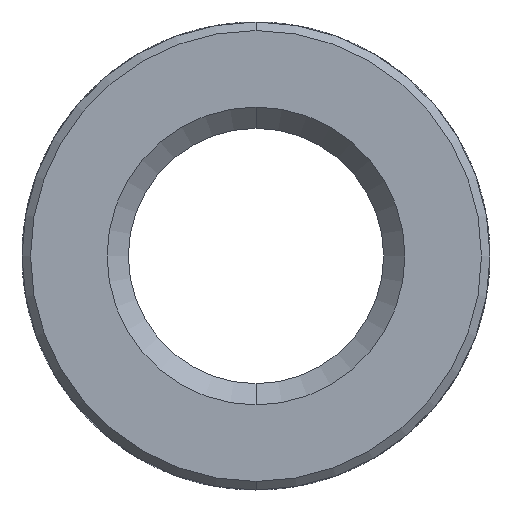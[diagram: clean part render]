
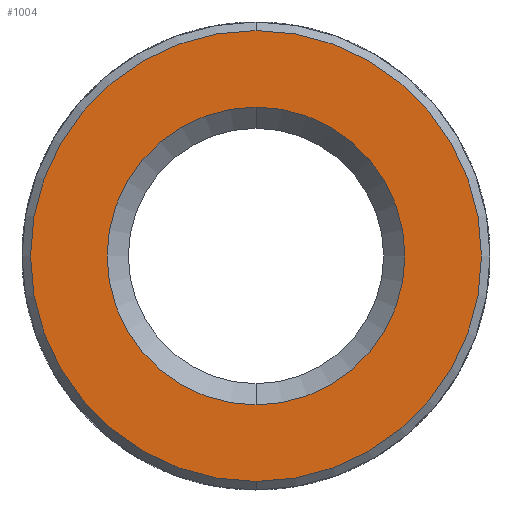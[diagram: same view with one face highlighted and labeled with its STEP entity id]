
A CAD part, front view. The second image highlights one B-rep face of the part: STEP entity #1004.
In plain terms, the highlighted planar face has unit normal (0, -1, 0).
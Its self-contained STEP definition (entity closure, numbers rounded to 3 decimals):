
#79 = EDGE_CURVE ( 'NONE', #3825, #1721, #1003, .T. ) ;
#145 = EDGE_CURVE ( 'NONE', #3930, #2980, #2887, .T. ) ;
#176 = CARTESIAN_POINT ( 'NONE',  ( 0., -4.1, 0. ) ) ;
#277 = CARTESIAN_POINT ( 'NONE',  ( 0., -4.1, -2.65 ) ) ;
#352 = DIRECTION ( 'NONE',  ( 0., 0., -1. ) ) ;
#355 = EDGE_CURVE ( 'NONE', #1721, #3825, #951, .T. ) ;
#408 = EDGE_LOOP ( 'NONE', ( #2009, #2574 ) ) ;
#410 = AXIS2_PLACEMENT_3D ( 'NONE', #706, #657, #352 ) ;
#657 = DIRECTION ( 'NONE',  ( 0., 1., 0. ) ) ;
#706 = CARTESIAN_POINT ( 'NONE',  ( 0., -4.1, 0. ) ) ;
#736 = CARTESIAN_POINT ( 'NONE',  ( 0., -4.1, 1.75 ) ) ;
#829 = DIRECTION ( 'NONE',  ( 0., -1., 0. ) ) ;
#929 = ORIENTED_EDGE ( 'NONE', *, *, #79, .T. ) ;
#951 = CIRCLE ( 'NONE', #410, 1.75 ) ;
#976 = DIRECTION ( 'NONE',  ( 0., 0., -1. ) ) ;
#1003 = CIRCLE ( 'NONE', #2411, 1.75 ) ;
#1004 = ADVANCED_FACE ( 'NONE', ( #2586, #3366 ), #2239, .T. ) ;
#1154 = AXIS2_PLACEMENT_3D ( 'NONE', #2506, #3166, #976 ) ;
#1206 = ORIENTED_EDGE ( 'NONE', *, *, #355, .T. ) ;
#1220 = EDGE_LOOP ( 'NONE', ( #1206, #929 ) ) ;
#1369 = AXIS2_PLACEMENT_3D ( 'NONE', #3186, #1952, #3900 ) ;
#1403 = DIRECTION ( 'NONE',  ( 0., 0., -1. ) ) ;
#1721 = VERTEX_POINT ( 'NONE', #2077 ) ;
#1777 = AXIS2_PLACEMENT_3D ( 'NONE', #3030, #829, #2368 ) ;
#1952 = DIRECTION ( 'NONE',  ( 0., -1., 0. ) ) ;
#2009 = ORIENTED_EDGE ( 'NONE', *, *, #145, .T. ) ;
#2075 = CARTESIAN_POINT ( 'NONE',  ( 0., -4.1, 2.65 ) ) ;
#2077 = CARTESIAN_POINT ( 'NONE',  ( 0., -4.1, -1.75 ) ) ;
#2239 = PLANE ( 'NONE',  #1369 ) ;
#2246 = CIRCLE ( 'NONE', #1154, 2.65 ) ;
#2334 = EDGE_CURVE ( 'NONE', #2980, #3930, #2246, .T. ) ;
#2368 = DIRECTION ( 'NONE',  ( 0., 0., -1. ) ) ;
#2411 = AXIS2_PLACEMENT_3D ( 'NONE', #176, #3905, #1403 ) ;
#2506 = CARTESIAN_POINT ( 'NONE',  ( 0., -4.1, 0. ) ) ;
#2574 = ORIENTED_EDGE ( 'NONE', *, *, #2334, .T. ) ;
#2586 = FACE_OUTER_BOUND ( 'NONE', #408, .T. ) ;
#2887 = CIRCLE ( 'NONE', #1777, 2.65 ) ;
#2980 = VERTEX_POINT ( 'NONE', #277 ) ;
#3030 = CARTESIAN_POINT ( 'NONE',  ( 0., -4.1, 0. ) ) ;
#3166 = DIRECTION ( 'NONE',  ( 0., -1., 0. ) ) ;
#3186 = CARTESIAN_POINT ( 'NONE',  ( 0., -4.1, 2.75 ) ) ;
#3366 = FACE_BOUND ( 'NONE', #1220, .T. ) ;
#3825 = VERTEX_POINT ( 'NONE', #736 ) ;
#3900 = DIRECTION ( 'NONE',  ( 0., 0., -1. ) ) ;
#3905 = DIRECTION ( 'NONE',  ( 0., 1., 0. ) ) ;
#3930 = VERTEX_POINT ( 'NONE', #2075 ) ;
